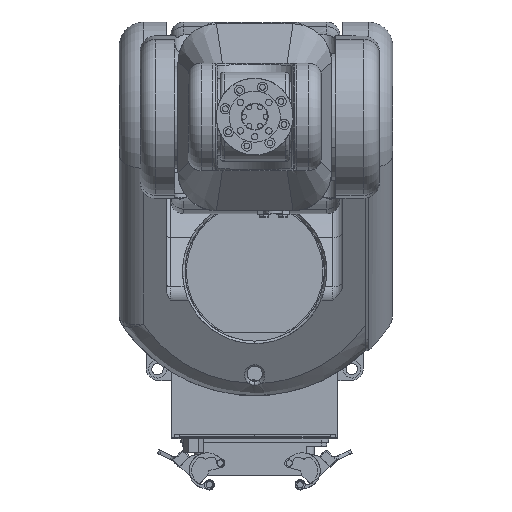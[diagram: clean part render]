
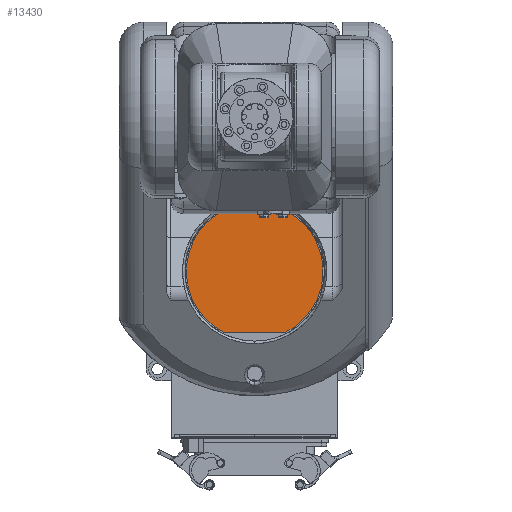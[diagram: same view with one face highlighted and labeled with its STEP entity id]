
A CAD part, top view. The second image highlights one B-rep face of the part: STEP entity #13430.
In plain terms, the highlighted planar face has unit normal (0, 0, 1).
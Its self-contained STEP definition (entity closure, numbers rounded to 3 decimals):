
#13407=CARTESIAN_POINT('Axis2P3D Location',(0.,0.,-45.4)) ;
#13412=CARTESIAN_POINT('Line Origine',(0.,-48.,-45.4)) ;
#13416=CARTESIAN_POINT('Vertex',(-23.627,-48.,-45.4)) ;
#13418=CARTESIAN_POINT('Vertex',(23.627,-48.,-45.4)) ;
#13421=CARTESIAN_POINT('Axis2P3D Location',(0.,0.,-45.4)) ;
#13408=DIRECTION('Axis2P3D Direction',(0.,0.,1.)) ;
#13409=DIRECTION('Axis2P3D XDirection',(0.,-1.,0.)) ;
#13413=DIRECTION('Vector Direction',(-1.,0.,0.)) ;
#13422=DIRECTION('Axis2P3D Direction',(0.,0.,1.)) ;
#13410=AXIS2_PLACEMENT_3D('Plane Axis2P3D',#13407,#13408,#13409) ;
#13423=AXIS2_PLACEMENT_3D('Circle Axis2P3D',#13421,#13422,$) ;
#13427=ORIENTED_EDGE('',*,*,#13420,.T.) ;
#13428=ORIENTED_EDGE('',*,*,#13425,.T.) ;
#13414=VECTOR('Line Direction',#13413,1.) ;
#13430=ADVANCED_FACE('J1',(#13429),#13411,.T.) ;
#13424=CIRCLE('generated circle',#13423,53.5) ;
#13420=EDGE_CURVE('',#13417,#13419,#13415,.F.) ;
#13425=EDGE_CURVE('',#13419,#13417,#13424,.T.) ;
#13426=EDGE_LOOP('',(#13427,#13428)) ;
#13429=FACE_OUTER_BOUND('',#13426,.T.) ;
#13415=LINE('Line',#13412,#13414) ;
#13411=PLANE('',#13410) ;
#13417=VERTEX_POINT('',#13416) ;
#13419=VERTEX_POINT('',#13418) ;
